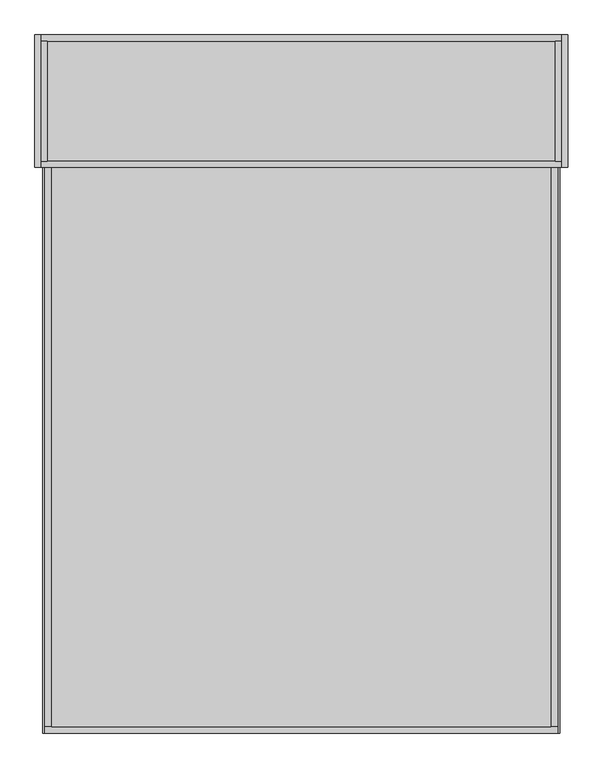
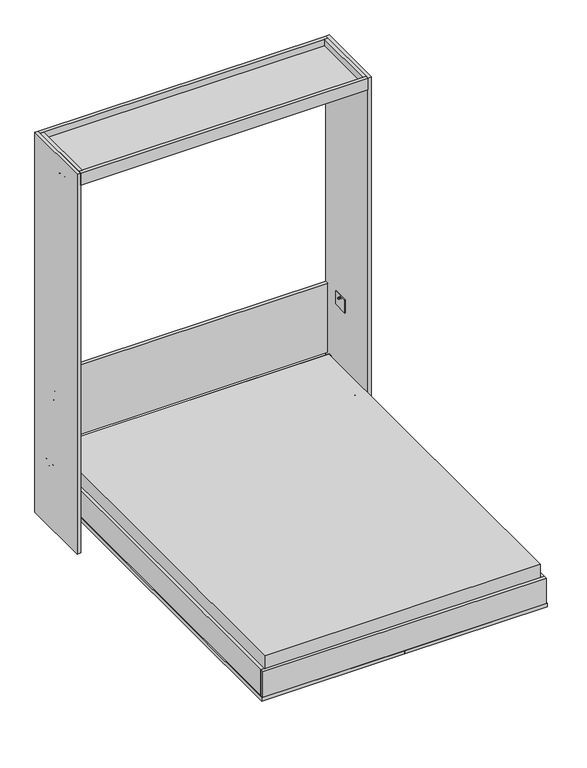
"""IFC4 building model written with IfcOpenShell, lengths in millimetres: furniture geometry, Queen_Murphy_Bed_9263 : Queen_Murphy_Bed_9263."""

from ifc_helpers import new_model, si_unit, point, frame, frame_2d, origin, place, context, project, spatial, polyline, circle_curve, ellipse_curve, trimmed, segment, composite_curve, outline, extrude, source, transform, mapped, element, save
from ifc_brep_helpers import plane_surface, cylinder_surface, revolved_surface, advanced_brep


def furniture_43ceb7e6(model_context):
    return source(origin(), model_context, "Body", "SolidModel", [
        advanced_brep(
        [(1174.75, 1711.325, 337.5130189), (1174.75, 1711.325, 341.9369811), (1174.75, 1711.325, 339.725), (1180.7352741, 1711.325, 334.9121715), (1180.7352741, 1711.325, 344.5378285), (1181.8631492, 1711.325, 336.8657086), (1181.8631492, 1711.325, 342.5842914), (1189.0595048, 1711.325, 334.5274709), (1189.0595048, 1711.325, 344.9225291), (1189.0595048, 1711.325, 331.7875), (1189.0595048, 1711.325, 347.6625), (1190.625, 1711.325, 331.7875), (1190.625, 1711.325, 347.6625), (1190.625, 1711.325, 339.725)],
        [
            (0, 1, circle_curve(frame((1174.75, 1711.325, 339.725), z_axis=(-1.0, 0.0, 0.0), x_axis=(0.0, 0.0, 1.0)), 2.2119811)),
            (1, 2),
            (2, 0),
            (1, 0, circle_curve(frame((1174.75, 1711.325, 339.725), z_axis=(-1.0, 0.0, 0.0), x_axis=(0.0, 0.0, 1.0)), 2.2119811)),
            (3, 4, circle_curve(frame((1180.7352741, 1711.325, 339.725), z_axis=(-1.0, 0.0, 0.0), x_axis=(0.0, 0.0, 1.0)), 4.8128285)),
            (4, 1, circle_curve(frame((1180.5429661, 1711.325, 336.7930678), z_axis=(0.0, -1.0, 0.0), x_axis=(-1.0, 0.0, 0.0)), 7.7471479)),
            (0, 3, circle_curve(frame((1180.5429661, 1711.325, 342.6569322), z_axis=(0.0, -1.0, 0.0), x_axis=(-1.0, 0.0, 0.0)), 7.7471479)),
            (4, 3, circle_curve(frame((1180.7352741, 1711.325, 339.725), z_axis=(-1.0, 0.0, 0.0), x_axis=(0.0, 0.0, 1.0)), 4.8128285)),
            (5, 6, circle_curve(frame((1181.8631492, 1711.325, 339.725), z_axis=(-1.0, 0.0, 0.0), x_axis=(0.0, 0.0, 1.0)), 2.8592914)),
            (6, 4),
            (3, 5),
            (6, 5, circle_curve(frame((1181.8631492, 1711.325, 339.725), z_axis=(-1.0, 0.0, 0.0), x_axis=(0.0, 0.0, 1.0)), 2.8592914)),
            (7, 8, circle_curve(frame((1189.0595048, 1711.325, 339.725), z_axis=(-1.0, 0.0, 0.0), x_axis=(0.0, 0.0, 1.0)), 5.1975291)),
            (8, 6),
            (5, 7),
            (8, 7, circle_curve(frame((1189.0595048, 1711.325, 339.725), z_axis=(-1.0, 0.0, 0.0), x_axis=(0.0, 0.0, 1.0)), 5.1975291)),
            (9, 10, circle_curve(frame((1189.0595048, 1711.325, 339.725), z_axis=(-1.0, 0.0, 0.0), x_axis=(0.0, 0.0, 1.0)), 7.9375)),
            (10, 8),
            (7, 9),
            (10, 9, circle_curve(frame((1189.0595048, 1711.325, 339.725), z_axis=(-1.0, 0.0, 0.0), x_axis=(0.0, 0.0, 1.0)), 7.9375)),
            (11, 12, circle_curve(frame((1190.625, 1711.325, 339.725), z_axis=(-1.0, 0.0, 0.0), x_axis=(0.0, 0.0, 1.0)), 7.9375)),
            (12, 10),
            (9, 11),
            (12, 11, circle_curve(frame((1190.625, 1711.325, 339.725), z_axis=(-1.0, 0.0, 0.0), x_axis=(0.0, 0.0, 1.0)), 7.9375)),
            (13, 12),
            (11, 13),
        ],
        [
            plane_surface(frame((1174.75, 1711.325, 339.725), z_axis=(-1.0, 0.0, 0.0), x_axis=(0.0, 0.0, 1.0))),
            revolved_surface(trimmed(ellipse_curve(frame((1180.5429661, 1711.325, 336.7930678), z_axis=(0.0, 1.0, 0.0), x_axis=(-1.0, 0.0, 0.0)), 7.7471479, 7.7471479), [point((1174.75, 1711.325, 341.9369811))], [point((1180.7352741, 1711.325, 344.5378285))], True, "CARTESIAN"), (1190.625, 1711.325, 339.725), (1.0, 0.0, 0.0)),
            revolved_surface(polyline([(1180.7352741, 1711.325, 344.5378285), (1181.8631492, 1711.325, 342.5842914)]), (1190.625, 1711.325, 339.725), (1.0, 0.0, 0.0)),
            revolved_surface(polyline([(1181.8631492, 1711.325, 342.5842914), (1189.0595048, 1711.325, 344.9225291)]), (1190.625, 1711.325, 339.725), (1.0, 0.0, 0.0)),
            plane_surface(frame((1189.0595048, 1711.325, 339.725), z_axis=(-1.0, 0.0, 0.0), x_axis=(0.0, 0.0, 1.0))),
            cylinder_surface(frame((1190.625, 1711.325, 339.725), z_axis=(1.0, 0.0, 0.0), x_axis=(0.0, 0.0, 1.0)), 7.9375),
            plane_surface(frame((1190.625, 1711.325, 339.725), z_axis=(1.0, 0.0, 0.0), x_axis=(0.0, 0.0, 1.0))),
        ],
        [
            (0, [[1, 2, 3]]),
            (0, [[4, -3, -2]]),
            (1, [[5, 6, -1, 7]]),
            (1, [[8, -7, -4, -6]]),
            (2, [[9, 10, -5, 11]]),
            (2, [[12, -11, -8, -10]]),
            (3, [[13, 14, -9, 15]]),
            (3, [[16, -15, -12, -14]]),
            (4, [[17, 18, -13, 19]]),
            (4, [[20, -19, -16, -18]]),
            (5, [[21, 22, -17, 23]]),
            (5, [[24, -23, -20, -22]]),
            (6, [[25, -21, 26]]),
            (6, [[-26, -24, -25]]),
        ],
    ),
        advanced_brep(
        [(-371.475, 1711.325, 331.7875), (-371.475, 1711.325, 347.6625), (-371.475, 1711.325, 339.725), (-369.9095048, 1711.325, 331.7875), (-369.9095048, 1711.325, 347.6625), (-369.9095048, 1711.325, 334.5274709), (-369.9095048, 1711.325, 344.9225291), (-362.7131492, 1711.325, 336.8657086), (-362.7131492, 1711.325, 342.5842914), (-361.5852741, 1711.325, 334.9121715), (-361.5852741, 1711.325, 344.5378285), (-355.6, 1711.325, 337.5130189), (-355.6, 1711.325, 341.9369811), (-355.6, 1711.325, 339.725)],
        [
            (0, 1, circle_curve(frame((-371.475, 1711.325, 339.725), z_axis=(-1.0, 0.0, 0.0), x_axis=(0.0, 0.0, 1.0)), 7.9375)),
            (1, 2),
            (2, 0),
            (1, 0, circle_curve(frame((-371.475, 1711.325, 339.725), z_axis=(-1.0, 0.0, 0.0), x_axis=(0.0, 0.0, 1.0)), 7.9375)),
            (3, 4, circle_curve(frame((-369.9095048, 1711.325, 339.725), z_axis=(-1.0, 0.0, 0.0), x_axis=(0.0, 0.0, 1.0)), 7.9375)),
            (4, 1),
            (0, 3),
            (4, 3, circle_curve(frame((-369.9095048, 1711.325, 339.725), z_axis=(-1.0, 0.0, 0.0), x_axis=(0.0, 0.0, 1.0)), 7.9375)),
            (5, 6, circle_curve(frame((-369.9095048, 1711.325, 339.725), z_axis=(-1.0, 0.0, 0.0), x_axis=(0.0, 0.0, 1.0)), 5.1975291)),
            (6, 4),
            (3, 5),
            (6, 5, circle_curve(frame((-369.9095048, 1711.325, 339.725), z_axis=(-1.0, 0.0, 0.0), x_axis=(0.0, 0.0, 1.0)), 5.1975291)),
            (7, 8, circle_curve(frame((-362.7131492, 1711.325, 339.725), z_axis=(-1.0, 0.0, 0.0), x_axis=(0.0, 0.0, 1.0)), 2.8592914)),
            (8, 6),
            (5, 7),
            (8, 7, circle_curve(frame((-362.7131492, 1711.325, 339.725), z_axis=(-1.0, 0.0, 0.0), x_axis=(0.0, 0.0, 1.0)), 2.8592914)),
            (9, 10, circle_curve(frame((-361.5852741, 1711.325, 339.725), z_axis=(-1.0, 0.0, 0.0), x_axis=(0.0, 0.0, 1.0)), 4.8128285)),
            (10, 8),
            (7, 9),
            (10, 9, circle_curve(frame((-361.5852741, 1711.325, 339.725), z_axis=(-1.0, 0.0, 0.0), x_axis=(0.0, 0.0, 1.0)), 4.8128285)),
            (11, 12, circle_curve(frame((-355.6, 1711.325, 339.725), z_axis=(-1.0, 0.0, 0.0), x_axis=(0.0, 0.0, 1.0)), 2.2119811)),
            (12, 10, circle_curve(frame((-361.3929661, 1711.325, 336.7930678), z_axis=(0.0, -1.0, 0.0), x_axis=(1.0, 0.0, 0.0)), 7.7471479)),
            (9, 11, circle_curve(frame((-361.3929661, 1711.325, 342.6569322), z_axis=(0.0, -1.0, 0.0), x_axis=(1.0, 0.0, 0.0)), 7.7471479)),
            (12, 11, circle_curve(frame((-355.6, 1711.325, 339.725), z_axis=(-1.0, 0.0, 0.0), x_axis=(0.0, 0.0, 1.0)), 2.2119811)),
            (13, 12),
            (11, 13),
        ],
        [
            plane_surface(frame((-371.475, 1711.325, 339.725), z_axis=(-1.0, 0.0, 0.0), x_axis=(0.0, 0.0, 1.0))),
            cylinder_surface(frame((-371.475, 1711.325, 339.725), z_axis=(1.0, 0.0, 0.0), x_axis=(0.0, 0.0, 1.0)), 7.9375),
            plane_surface(frame((-369.9095048, 1711.325, 339.725), z_axis=(1.0, 0.0, 0.0), x_axis=(0.0, 0.0, 1.0))),
            revolved_surface(polyline([(-369.9095048, 1711.325, 344.9225291), (-362.7131492, 1711.325, 342.5842914)]), (-371.475, 1711.325, 339.725), (1.0, 0.0, 0.0)),
            revolved_surface(polyline([(-362.7131492, 1711.325, 342.5842914), (-361.5852741, 1711.325, 344.5378285)]), (-371.475, 1711.325, 339.725), (1.0, 0.0, 0.0)),
            revolved_surface(trimmed(ellipse_curve(frame((-361.3929661, 1711.325, 336.7930678), z_axis=(0.0, 1.0, 0.0), x_axis=(1.0, 0.0, 0.0)), 7.7471479, 7.7471479), [point((-361.5852741, 1711.325, 344.5378285))], [point((-355.6, 1711.325, 341.9369811))], True, "CARTESIAN"), (-371.475, 1711.325, 339.725), (1.0, 0.0, 0.0)),
            plane_surface(frame((-355.6, 1711.325, 339.725), z_axis=(1.0, 0.0, 0.0), x_axis=(0.0, 0.0, 1.0))),
        ],
        [
            (0, [[1, 2, 3]]),
            (0, [[4, -3, -2]]),
            (1, [[5, 6, -1, 7]]),
            (1, [[8, -7, -4, -6]]),
            (2, [[9, 10, -5, 11]]),
            (2, [[12, -11, -8, -10]]),
            (3, [[13, 14, -9, 15]]),
            (3, [[16, -15, -12, -14]]),
            (4, [[17, 18, -13, 19]]),
            (4, [[20, -19, -16, -18]]),
            (5, [[21, 22, -17, 23]]),
            (5, [[24, -23, -20, -22]]),
            (6, [[25, -21, 26]]),
            (6, [[-26, -24, -25]]),
        ],
    ),
        extrude(outline(polyline([(-352.425, 1730.375), (409.575, 1730.375), (409.575, -301.625), (-352.425, -301.625), (-352.425, 1730.375)])), frame((0.0, 0.0, 215.9), z_axis=(0.0, 0.0, 1.0), x_axis=(1.0, 0.0, 0.0)), (0.0, 0.0, 1.0), 6.35),
        extrude(outline(polyline([(409.575, 1730.375), (1171.575, 1730.375), (1171.575, -301.625), (409.575, -301.625), (409.575, 1730.375)])), frame((0.0, 0.0, 215.9), z_axis=(0.0, 0.0, 1.0), x_axis=(1.0, 0.0, 0.0)), (0.0, 0.0, 1.0), 6.35),
        extrude(outline(polyline([(1707.6588258, 346.075), (1714.9911742, 346.075), (1718.6573484, 339.725), (1714.9911742, 333.375), (1707.6588258, 333.375), (1703.9926516, 339.725), (1707.6588258, 346.075)])), frame((1193.8, 0.0, 0.0), z_axis=(1.0, 0.0, 0.0), x_axis=(0.0, 1.0, 0.0)), (0.0, 0.0, 1.0), 4.7625),
        extrude(outline(polyline([(1707.6588258, 346.075), (1714.9911742, 346.075), (1718.6573484, 339.725), (1714.9911742, 333.375), (1707.6588258, 333.375), (1703.9926516, 339.725), (1707.6588258, 346.075)])), frame((-379.4125, 0.0, 0.0), z_axis=(1.0, 0.0, 0.0), x_axis=(0.0, 1.0, 0.0)), (0.0, 0.0, 1.0), 7.9375),
        extrude(outline(polyline([(1152.525, -301.625), (1152.525, 1730.375), (1171.575, 1730.375), (1171.575, -301.625), (1152.525, -301.625)])), frame((0.0, 0.0, 177.8), z_axis=(0.0, 0.0, 1.0), x_axis=(1.0, 0.0, 0.0)), (0.0, 0.0, 1.0), 38.1),
        extrude(outline(polyline([(-333.375, 1730.375), (-333.375, -301.625), (-352.425, -301.625), (-352.425, 1730.375), (-333.375, 1730.375)])), frame((0.0, 0.0, 177.8), z_axis=(0.0, 0.0, 1.0), x_axis=(1.0, 0.0, 0.0)), (0.0, 0.0, 1.0), 38.1),
        extrude(outline(polyline([(1730.375, 215.9), (1730.375, 177.8), (1711.325, 177.8), (1673.225, 177.8), (1673.225, 196.85), (1711.325, 196.85), (1711.325, 215.9), (1730.375, 215.9)])), frame((-333.375, 0.0, 0.0), z_axis=(1.0, 0.0, 0.0), x_axis=(0.0, 1.0, 0.0)), (0.0, 0.0, 1.0), 1485.9),
        extrude(outline(polyline([(1127.125, 215.9), (1146.175, 215.9), (1146.175, 196.85), (1184.275, 196.85), (1184.275, 177.8), (1146.175, 177.8), (1127.125, 177.8), (1127.125, 215.9)])), frame((-333.375, 0.0, 0.0), z_axis=(1.0, 0.0, 0.0), x_axis=(0.0, 1.0, 0.0)), (0.0, 0.0, 1.0), 1485.9),
        extrude(outline(polyline([(555.625, 215.9), (574.675, 215.9), (574.675, 196.85), (612.775, 196.85), (612.775, 177.8), (574.675, 177.8), (555.625, 177.8), (555.625, 215.9)])), frame((-333.375, 0.0, 0.0), z_axis=(1.0, 0.0, 0.0), x_axis=(0.0, 1.0, 0.0)), (0.0, 0.0, 1.0), 1485.9),
        extrude(outline(polyline([(-15.875, 215.9), (-15.875, 177.8), (-34.925, 177.8), (-73.025, 177.8), (-73.025, 196.85), (-34.925, 196.85), (-34.925, 215.9), (-15.875, 215.9)])), frame((-333.375, 0.0, 0.0), z_axis=(1.0, 0.0, 0.0), x_axis=(0.0, 1.0, 0.0)), (0.0, 0.0, 1.0), 1485.9),
        extrude(outline(polyline([(-301.625, 215.9), (-282.575, 215.9), (-282.575, 196.85), (-244.475, 196.85), (-244.475, 177.8), (-282.575, 177.8), (-301.625, 177.8), (-301.625, 215.9)])), frame((-333.375, 0.0, 0.0), z_axis=(1.0, 0.0, 0.0), x_axis=(0.0, 1.0, 0.0)), (0.0, 0.0, 1.0), 1485.9),
        extrude(outline(polyline([(-382.5875, 1784.35), (1201.7375, 1784.35), (1201.7375, 1419.225), (-382.5875, 1419.225), (-382.5875, 1784.35)])), frame((0.0, 0.0, 2136.775), z_axis=(0.0, 0.0, 1.0), x_axis=(1.0, 0.0, 0.0)), (0.0, 0.0, 1.0), 19.05),
        extrude(outline(polyline([(-382.5875, 1784.35), (-363.5375, 1784.35), (-363.5375, 1419.225), (-382.5875, 1419.225), (-382.5875, 1784.35)])), frame((0.0, 0.0, 2155.825), z_axis=(0.0, 0.0, 1.0), x_axis=(1.0, 0.0, 0.0)), (0.0, 0.0, 1.0), 38.1),
        extrude(outline(polyline([(1182.6875, 1784.35), (1201.7375, 1784.35), (1201.7375, 1419.225), (1182.6875, 1419.225), (1182.6875, 1784.35)])), frame((0.0, 0.0, 2155.825), z_axis=(0.0, 0.0, 1.0), x_axis=(1.0, 0.0, 0.0)), (0.0, 0.0, 1.0), 38.1),
        extrude(outline(polyline([(1201.7375, 1803.4), (1201.7375, 1784.35), (-382.5875, 1784.35), (-382.5875, 1803.4), (1201.7375, 1803.4)])), frame((0.0, 0.0, 2124.075), z_axis=(0.0, 0.0, 1.0), x_axis=(1.0, 0.0, 0.0)), (0.0, 0.0, 1.0), 69.85),
        extrude(outline(polyline([(1201.7375, 1419.225), (1201.7375, 1400.175), (-382.5875, 1400.175), (-382.5875, 1419.225), (1201.7375, 1419.225)])), frame((0.0, 0.0, 2124.075), z_axis=(0.0, 0.0, 1.0), x_axis=(1.0, 0.0, 0.0)), (0.0, 0.0, 1.0), 69.85),
        extrude(outline(polyline([(-350.8375, 1717.675), (1169.9875, 1717.675), (1169.9875, -301.625), (-350.8375, -301.625), (-350.8375, 1717.675)])), frame((0.0, 0.0, 222.25), z_axis=(0.0, 0.0, 1.0), x_axis=(1.0, 0.0, 0.0)), (0.0, 0.0, 1.0), 180.975),
        extrude(outline(composite_curve([segment(trimmed(circle_curve(frame_2d((1520.825, 279.4)), 7.540625), [point((1513.284375, 279.4))], [point((1528.365625, 279.4))], False, "CARTESIAN"), True, "CONTINUOUS"), segment(trimmed(circle_curve(frame_2d((1520.825, 279.4)), 7.540625), [point((1528.365625, 279.4))], [point((1513.284375, 279.4))], False, "CARTESIAN"), True, "CONTINUOUS")], self_intersect=False)), frame((1147.7625, 0.0, 0.0), z_axis=(1.0, 0.0, 0.0), x_axis=(0.0, 1.0, 0.0)), (0.0, 0.0, 1.0), 53.975),
        extrude(outline(polyline([(1196.975, 1476.375), (1196.975, 1565.275), (1201.7375, 1565.275), (1201.7375, 1476.375), (1196.975, 1476.375)])), frame((0.0, 0.0, 254.0), z_axis=(0.0, 0.0, 1.0), x_axis=(1.0, 0.0, 0.0)), (0.0, 0.0, 1.0), 50.8),
        extrude(outline(composite_curve([segment(trimmed(circle_curve(frame_2d((1520.825, 279.4)), 7.540625), [point((1513.284375, 279.4))], [point((1528.365625, 279.4))], False, "CARTESIAN"), True, "CONTINUOUS"), segment(trimmed(circle_curve(frame_2d((1520.825, 279.4)), 7.540625), [point((1528.365625, 279.4))], [point((1513.284375, 279.4))], False, "CARTESIAN"), True, "CONTINUOUS")], self_intersect=False)), frame((-395.2875, 0.0, 0.0), z_axis=(1.0, 0.0, 0.0), x_axis=(0.0, 1.0, 0.0)), (0.0, 0.0, 1.0), 66.675),
        extrude(outline(polyline([(-377.825, 1565.275), (-377.825, 1476.375), (-382.5875, 1476.375), (-382.5875, 1565.275), (-377.825, 1565.275)])), frame((0.0, 0.0, 254.0), z_axis=(0.0, 0.0, 1.0), x_axis=(1.0, 0.0, 0.0)), (0.0, 0.0, 1.0), 50.8),
        extrude(outline(polyline([(1650.5088258, 768.35), (1657.8411742, 768.35), (1661.5073484, 762.0), (1657.8411742, 755.65), (1650.5088258, 755.65), (1646.8426516, 762.0), (1650.5088258, 768.35)])), frame((1196.975, 0.0, 0.0), z_axis=(1.0, 0.0, 0.0), x_axis=(0.0, 1.0, 0.0)), (0.0, 0.0, 1.0), 4.7625),
        extrude(outline(polyline([(1195.3875, 1609.725), (1195.3875, 1698.625), (1198.5625, 1698.625), (1198.5625, 1609.725), (1195.3875, 1609.725)])), frame((0.0, 0.0, 698.5), z_axis=(0.0, 0.0, 1.0), x_axis=(1.0, 0.0, 0.0)), (0.0, 0.0, 1.0), 76.2),
        extrude(outline(polyline([(1650.5088258, 768.35), (1657.8411742, 768.35), (1661.5073484, 762.0), (1657.8411742, 755.65), (1650.5088258, 755.65), (1646.8426516, 762.0), (1650.5088258, 768.35)])), frame((-387.35, 0.0, 0.0), z_axis=(1.0, 0.0, 0.0), x_axis=(0.0, 1.0, 0.0)), (0.0, 0.0, 1.0), 4.7625),
        extrude(outline(composite_curve([segment(trimmed(circle_curve(frame_2d((1571.625, 2092.325)), 22.225), [point((1549.4, 2092.325))], [point((1593.85, 2092.325))], False, "CARTESIAN"), True, "CONTINUOUS"), segment(trimmed(circle_curve(frame_2d((1571.625, 2092.325)), 22.225), [point((1593.85, 2092.325))], [point((1549.4, 2092.325))], False, "CARTESIAN"), True, "CONTINUOUS")], self_intersect=False)), frame((1199.35625, 0.0, 0.0), z_axis=(1.0, 0.0, 0.0), x_axis=(0.0, 1.0, 0.0)), (0.0, 0.0, 1.0), 2.38125),
        advanced_brep(
        [(1220.7875, 1400.175, 2193.925), (1220.7875, 1803.4, 2193.925), (1201.7375, 1803.4, 2193.925), (1201.7375, 1400.175, 2193.925), (1220.7875, 1400.175, -19.05), (1201.7375, 1400.175, -19.05), (1201.7375, 1803.4, -19.05), (1220.7875, 1803.4, -19.05), (1201.7375, 1588.29375, 2092.325), (1201.7375, 1580.35625, 2092.325), (1214.4375, 1580.35625, 2092.325), (1214.4375, 1588.29375, 2092.325)],
        [
            (0, 1),
            (1, 2),
            (2, 3),
            (3, 0),
            (4, 5),
            (5, 6),
            (6, 7),
            (7, 4),
            (0, 4),
            (7, 1),
            (6, 2),
            (5, 3),
            (8, 9, circle_curve(frame((1201.7375, 1584.325, 2092.325), z_axis=(1.0, 0.0, 0.0), x_axis=(0.0, 1.0, 0.0)), 3.96875)),
            (9, 8, circle_curve(frame((1201.7375, 1584.325, 2092.325), z_axis=(1.0, 0.0, 0.0), x_axis=(0.0, 1.0, 0.0)), 3.96875)),
            (10, 11, circle_curve(frame((1214.4375, 1584.325, 2092.325), z_axis=(-1.0, 0.0, 0.0), x_axis=(0.0, 1.0, 0.0)), 3.96875)),
            (11, 10, circle_curve(frame((1214.4375, 1584.325, 2092.325), z_axis=(-1.0, 0.0, 0.0), x_axis=(0.0, 1.0, 0.0)), 3.96875)),
            (11, 8),
            (9, 10),
        ],
        [
            plane_surface(frame((1220.7875, 1803.4, 2193.925), z_axis=(0.0, 0.0, 1.0), x_axis=(0.0, 1.0, 0.0))),
            plane_surface(frame((1220.7875, 1803.4, -19.05), z_axis=(0.0, 0.0, -1.0), x_axis=(0.0, -1.0, 0.0))),
            plane_surface(frame((1220.7875, 1400.175, 2193.925), z_axis=(1.0, 0.0, 0.0), x_axis=(0.0, 0.0, -1.0))),
            plane_surface(frame((1220.7875, 1803.4, 2193.925), z_axis=(0.0, 1.0, 0.0), x_axis=(0.0, 0.0, -1.0))),
            plane_surface(frame((1201.7375, 1803.4, 2193.925), z_axis=(-1.0, 0.0, 0.0), x_axis=(0.0, 0.0, -1.0))),
            plane_surface(frame((1201.7375, 1400.175, 2193.925), z_axis=(0.0, -1.0, 0.0), x_axis=(0.0, 0.0, -1.0))),
            plane_surface(frame((1214.4375, 1588.29375, 2092.325), z_axis=(-1.0, 0.0, 0.0), x_axis=(0.0, 0.0, 1.0))),
            revolved_surface(polyline([(1214.4375, 1588.29375, 2092.325), (1201.7375, 1588.29375, 2092.325)]), (1201.7375, 1584.325, 2092.325), (1.0, 0.0, 0.0)),
        ],
        [
            (0, [[1, 2, 3, 4]]),
            (1, [[5, 6, 7, 8]]),
            (2, [[-1, 9, -8, 10]]),
            (3, [[-2, -10, -7, 11]]),
            (4, [[-3, -11, -6, 12], [13, 14]]),
            (5, [[-4, -12, -5, -9]]),
            (6, [[15, 16]]),
            (7, [[-16, 17, -14, 18]]),
            (7, [[-15, -18, -13, -17]]),
        ],
    ),
        extrude(outline(composite_curve([segment(trimmed(circle_curve(frame_2d((1571.625, 2092.325)), 22.225), [point((1549.4, 2092.325))], [point((1593.85, 2092.325))], False, "CARTESIAN"), True, "CONTINUOUS"), segment(trimmed(circle_curve(frame_2d((1571.625, 2092.325)), 22.225), [point((1593.85, 2092.325))], [point((1549.4, 2092.325))], False, "CARTESIAN"), True, "CONTINUOUS")], self_intersect=False)), frame((-382.5875, 0.0, 0.0), z_axis=(1.0, 0.0, 0.0), x_axis=(0.0, 1.0, 0.0)), (0.0, 0.0, 1.0), 2.38125),
        advanced_brep(
        [(1182.6875, 1654.175, 759.7880189), (1182.6875, 1654.175, 764.2119811), (1182.6875, 1654.175, 762.0), (1188.6727741, 1654.175, 757.1871715), (1188.6727741, 1654.175, 766.8128285), (1189.8006492, 1654.175, 759.1407086), (1189.8006492, 1654.175, 764.8592914), (1196.9970048, 1654.175, 756.8024709), (1196.9970048, 1654.175, 767.1975291), (1196.9970048, 1654.175, 754.0625), (1196.9970048, 1654.175, 769.9375), (1198.5625, 1654.175, 754.0625), (1198.5625, 1654.175, 769.9375), (1198.5625, 1654.175, 762.0)],
        [
            (0, 1, circle_curve(frame((1182.6875, 1654.175, 762.0), z_axis=(-1.0, 0.0, 0.0), x_axis=(0.0, 0.0, 1.0)), 2.2119811)),
            (1, 2),
            (2, 0),
            (1, 0, circle_curve(frame((1182.6875, 1654.175, 762.0), z_axis=(-1.0, 0.0, 0.0), x_axis=(0.0, 0.0, 1.0)), 2.2119811)),
            (3, 4, circle_curve(frame((1188.6727741, 1654.175, 762.0), z_axis=(-1.0, 0.0, 0.0), x_axis=(0.0, 0.0, 1.0)), 4.8128285)),
            (4, 1, circle_curve(frame((1188.4804661, 1654.175, 759.0680678), z_axis=(0.0, -1.0, 0.0), x_axis=(-1.0, 0.0, 0.0)), 7.7471479)),
            (0, 3, circle_curve(frame((1188.4804661, 1654.175, 764.9319322), z_axis=(0.0, -1.0, 0.0), x_axis=(-1.0, 0.0, 0.0)), 7.7471479)),
            (4, 3, circle_curve(frame((1188.6727741, 1654.175, 762.0), z_axis=(-1.0, 0.0, 0.0), x_axis=(0.0, 0.0, 1.0)), 4.8128285)),
            (5, 6, circle_curve(frame((1189.8006492, 1654.175, 762.0), z_axis=(-1.0, 0.0, 0.0), x_axis=(0.0, 0.0, 1.0)), 2.8592914)),
            (6, 4),
            (3, 5),
            (6, 5, circle_curve(frame((1189.8006492, 1654.175, 762.0), z_axis=(-1.0, 0.0, 0.0), x_axis=(0.0, 0.0, 1.0)), 2.8592914)),
            (7, 8, circle_curve(frame((1196.9970048, 1654.175, 762.0), z_axis=(-1.0, 0.0, 0.0), x_axis=(0.0, 0.0, 1.0)), 5.1975291)),
            (8, 6),
            (5, 7),
            (8, 7, circle_curve(frame((1196.9970048, 1654.175, 762.0), z_axis=(-1.0, 0.0, 0.0), x_axis=(0.0, 0.0, 1.0)), 5.1975291)),
            (9, 10, circle_curve(frame((1196.9970048, 1654.175, 762.0), z_axis=(-1.0, 0.0, 0.0), x_axis=(0.0, 0.0, 1.0)), 7.9375)),
            (10, 8),
            (7, 9),
            (10, 9, circle_curve(frame((1196.9970048, 1654.175, 762.0), z_axis=(-1.0, 0.0, 0.0), x_axis=(0.0, 0.0, 1.0)), 7.9375)),
            (11, 12, circle_curve(frame((1198.5625, 1654.175, 762.0), z_axis=(-1.0, 0.0, 0.0), x_axis=(0.0, 0.0, 1.0)), 7.9375)),
            (12, 10),
            (9, 11),
            (12, 11, circle_curve(frame((1198.5625, 1654.175, 762.0), z_axis=(-1.0, 0.0, 0.0), x_axis=(0.0, 0.0, 1.0)), 7.9375)),
            (13, 12),
            (11, 13),
        ],
        [
            plane_surface(frame((1182.6875, 1654.175, 762.0), z_axis=(-1.0, 0.0, 0.0), x_axis=(0.0, 0.0, 1.0))),
            revolved_surface(trimmed(ellipse_curve(frame((1188.4804661, 1654.175, 759.0680678), z_axis=(0.0, 1.0, 0.0), x_axis=(-1.0, 0.0, 0.0)), 7.7471479, 7.7471479), [point((1182.6875, 1654.175, 764.2119811))], [point((1188.6727741, 1654.175, 766.8128285))], True, "CARTESIAN"), (1198.5625, 1654.175, 762.0), (1.0, 0.0, 0.0)),
            revolved_surface(polyline([(1188.6727741, 1654.175, 766.8128285), (1189.8006492, 1654.175, 764.8592914)]), (1198.5625, 1654.175, 762.0), (1.0, 0.0, 0.0)),
            revolved_surface(polyline([(1189.8006492, 1654.175, 764.8592914), (1196.9970048, 1654.175, 767.1975291)]), (1198.5625, 1654.175, 762.0), (1.0, 0.0, 0.0)),
            plane_surface(frame((1196.9970048, 1654.175, 762.0), z_axis=(-1.0, 0.0, 0.0), x_axis=(0.0, 0.0, 1.0))),
            cylinder_surface(frame((1198.5625, 1654.175, 762.0), z_axis=(1.0, 0.0, 0.0), x_axis=(0.0, 0.0, 1.0)), 7.9375),
            plane_surface(frame((1198.5625, 1654.175, 762.0), z_axis=(1.0, 0.0, 0.0), x_axis=(0.0, 0.0, 1.0))),
        ],
        [
            (0, [[1, 2, 3]]),
            (0, [[4, -3, -2]]),
            (1, [[5, 6, -1, 7]]),
            (1, [[8, -7, -4, -6]]),
            (2, [[9, 10, -5, 11]]),
            (2, [[12, -11, -8, -10]]),
            (3, [[13, 14, -9, 15]]),
            (3, [[16, -15, -12, -14]]),
            (4, [[17, 18, -13, 19]]),
            (4, [[20, -19, -16, -18]]),
            (5, [[21, 22, -17, 23]]),
            (5, [[24, -23, -20, -22]]),
            (6, [[25, -21, 26]]),
            (6, [[-26, -24, -25]]),
        ],
    ),
        advanced_brep(
        [(1177.13125, 1571.625, 2092.325), (1199.35625, 1571.625, 2070.1), (1199.35625, 1571.625, 2092.325), (1199.35625, 1571.625, 2114.55)],
        [
            (0, 1, circle_curve(frame((1199.35625, 1571.625, 2092.325), z_axis=(0.0, -1.0, 0.0), x_axis=(-1.0, 0.0, 0.0)), 22.225)),
            (1, 2),
            (2, 0),
            (2, 3),
            (3, 0, circle_curve(frame((1199.35625, 1571.625, 2092.325), z_axis=(0.0, -1.0, 0.0), x_axis=(-1.0, 0.0, 0.0)), 22.225)),
            (3, 1, circle_curve(frame((1199.35625, 1571.625, 2092.325), z_axis=(-1.0, 0.0, 0.0), x_axis=(0.0, 0.0, -1.0)), 22.225)),
        ],
        [
            plane_surface(frame((1199.35625, 1571.625, 2092.325), z_axis=(0.0, -1.0, 0.0), x_axis=(0.0, 0.0, -1.0))),
            plane_surface(frame((1199.35625, 1571.625, 2092.325), z_axis=(0.0, -1.0, 0.0), x_axis=(0.0, 0.0, 1.0))),
            revolved_surface(trimmed(ellipse_curve(frame((1199.35625, 1571.625, 2092.325), z_axis=(0.0, 1.0, 0.0), x_axis=(-1.0, 0.0, 0.0)), 22.225, 22.225), [point((1199.35625, 1571.625, 2070.1))], [point((1177.13125, 1571.625, 2092.325))], True, "CARTESIAN"), (1199.35625, 1571.625, 2092.325), (-1.0, 0.0, 0.0)),
            plane_surface(frame((1199.35625, 1571.625, 2092.325), z_axis=(1.0, 0.0, 0.0), x_axis=(0.0, 0.0, -1.0))),
        ],
        [
            (0, [[1, 2, 3]]),
            (1, [[4, 5, -3]]),
            (2, [[6, -1, -5]]),
            (3, [[-2, -6, -4]]),
        ],
    ),
        extrude(outline(polyline([(1201.7375, 1803.4), (1201.7375, 1784.35), (-382.5875, 1784.35), (-382.5875, 1803.4), (1201.7375, 1803.4)])), frame((0.0, 0.0, 361.95), z_axis=(0.0, 0.0, 1.0), x_axis=(1.0, 0.0, 0.0)), (0.0, 0.0, 1.0), 403.225),
        advanced_brep(
        [(-379.4125, 1654.175, 754.0625), (-379.4125, 1654.175, 769.9375), (-379.4125, 1654.175, 762.0), (-377.8470048, 1654.175, 754.0625), (-377.8470048, 1654.175, 769.9375), (-377.8470048, 1654.175, 756.8024709), (-377.8470048, 1654.175, 767.1975291), (-370.6506492, 1654.175, 759.1407086), (-370.6506492, 1654.175, 764.8592914), (-369.5227741, 1654.175, 757.1871715), (-369.5227741, 1654.175, 766.8128285), (-363.5375, 1654.175, 759.7880189), (-363.5375, 1654.175, 764.2119811), (-363.5375, 1654.175, 762.0)],
        [
            (0, 1, circle_curve(frame((-379.4125, 1654.175, 762.0), z_axis=(-1.0, 0.0, 0.0), x_axis=(0.0, 0.0, 1.0)), 7.9375)),
            (1, 2),
            (2, 0),
            (1, 0, circle_curve(frame((-379.4125, 1654.175, 762.0), z_axis=(-1.0, 0.0, 0.0), x_axis=(0.0, 0.0, 1.0)), 7.9375)),
            (3, 4, circle_curve(frame((-377.8470048, 1654.175, 762.0), z_axis=(-1.0, 0.0, 0.0), x_axis=(0.0, 0.0, 1.0)), 7.9375)),
            (4, 1),
            (0, 3),
            (4, 3, circle_curve(frame((-377.8470048, 1654.175, 762.0), z_axis=(-1.0, 0.0, 0.0), x_axis=(0.0, 0.0, 1.0)), 7.9375)),
            (5, 6, circle_curve(frame((-377.8470048, 1654.175, 762.0), z_axis=(-1.0, 0.0, 0.0), x_axis=(0.0, 0.0, 1.0)), 5.1975291)),
            (6, 4),
            (3, 5),
            (6, 5, circle_curve(frame((-377.8470048, 1654.175, 762.0), z_axis=(-1.0, 0.0, 0.0), x_axis=(0.0, 0.0, 1.0)), 5.1975291)),
            (7, 8, circle_curve(frame((-370.6506492, 1654.175, 762.0), z_axis=(-1.0, 0.0, 0.0), x_axis=(0.0, 0.0, 1.0)), 2.8592914)),
            (8, 6),
            (5, 7),
            (8, 7, circle_curve(frame((-370.6506492, 1654.175, 762.0), z_axis=(-1.0, 0.0, 0.0), x_axis=(0.0, 0.0, 1.0)), 2.8592914)),
            (9, 10, circle_curve(frame((-369.5227741, 1654.175, 762.0), z_axis=(-1.0, 0.0, 0.0), x_axis=(0.0, 0.0, 1.0)), 4.8128285)),
            (10, 8),
            (7, 9),
            (10, 9, circle_curve(frame((-369.5227741, 1654.175, 762.0), z_axis=(-1.0, 0.0, 0.0), x_axis=(0.0, 0.0, 1.0)), 4.8128285)),
            (11, 12, circle_curve(frame((-363.5375, 1654.175, 762.0), z_axis=(-1.0, 0.0, 0.0), x_axis=(0.0, 0.0, 1.0)), 2.2119811)),
            (12, 10, circle_curve(frame((-369.3304661, 1654.175, 759.0680678), z_axis=(0.0, -1.0, 0.0), x_axis=(1.0, 0.0, 0.0)), 7.7471479)),
            (9, 11, circle_curve(frame((-369.3304661, 1654.175, 764.9319322), z_axis=(0.0, -1.0, 0.0), x_axis=(1.0, 0.0, 0.0)), 7.7471479)),
            (12, 11, circle_curve(frame((-363.5375, 1654.175, 762.0), z_axis=(-1.0, 0.0, 0.0), x_axis=(0.0, 0.0, 1.0)), 2.2119811)),
            (13, 12),
            (11, 13),
        ],
        [
            plane_surface(frame((-379.4125, 1654.175, 762.0), z_axis=(-1.0, 0.0, 0.0), x_axis=(0.0, 0.0, 1.0))),
            cylinder_surface(frame((-379.4125, 1654.175, 762.0), z_axis=(1.0, 0.0, 0.0), x_axis=(0.0, 0.0, 1.0)), 7.9375),
            plane_surface(frame((-377.8470048, 1654.175, 762.0), z_axis=(1.0, 0.0, 0.0), x_axis=(0.0, 0.0, 1.0))),
            revolved_surface(polyline([(-377.8470048, 1654.175, 767.1975291), (-370.6506492, 1654.175, 764.8592914)]), (-379.4125, 1654.175, 762.0), (1.0, 0.0, 0.0)),
            revolved_surface(polyline([(-370.6506492, 1654.175, 764.8592914), (-369.5227741, 1654.175, 766.8128285)]), (-379.4125, 1654.175, 762.0), (1.0, 0.0, 0.0)),
            revolved_surface(trimmed(ellipse_curve(frame((-369.3304661, 1654.175, 759.0680678), z_axis=(0.0, 1.0, 0.0), x_axis=(1.0, 0.0, 0.0)), 7.7471479, 7.7471479), [point((-369.5227741, 1654.175, 766.8128285))], [point((-363.5375, 1654.175, 764.2119811))], True, "CARTESIAN"), (-379.4125, 1654.175, 762.0), (1.0, 0.0, 0.0)),
            plane_surface(frame((-363.5375, 1654.175, 762.0), z_axis=(1.0, 0.0, 0.0), x_axis=(0.0, 0.0, 1.0))),
        ],
        [
            (0, [[1, 2, 3]]),
            (0, [[4, -3, -2]]),
            (1, [[5, 6, -1, 7]]),
            (1, [[8, -7, -4, -6]]),
            (2, [[9, 10, -5, 11]]),
            (2, [[12, -11, -8, -10]]),
            (3, [[13, 14, -9, 15]]),
            (3, [[16, -15, -12, -14]]),
            (4, [[17, 18, -13, 19]]),
            (4, [[20, -19, -16, -18]]),
            (5, [[21, 22, -17, 23]]),
            (5, [[24, -23, -20, -22]]),
            (6, [[25, -21, 26]]),
            (6, [[-26, -24, -25]]),
        ],
    ),
        advanced_brep(
        [(-382.5875, 1609.725, 774.7), (-382.5875, 1698.625, 774.7), (-382.5875, 1698.625, 698.5), (-382.5875, 1609.725, 698.5), (-382.5875, 1654.175, 714.375), (-382.5875, 1654.175, 708.025), (-379.4125, 1609.725, 774.7), (-379.4125, 1609.725, 698.5), (-379.4125, 1698.625, 698.5), (-379.4125, 1698.625, 774.7), (-379.4125, 1654.175, 704.85), (-379.4125, 1654.175, 717.55)],
        [
            (0, 1),
            (1, 2),
            (2, 3),
            (3, 0),
            (4, 5, circle_curve(frame((-382.5875, 1654.175, 711.2), z_axis=(1.0, 0.0, 0.0), x_axis=(0.0, 0.0, 1.0)), 3.175)),
            (5, 4, circle_curve(frame((-382.5875, 1654.175, 711.2), z_axis=(1.0, 0.0, 0.0), x_axis=(0.0, 0.0, 1.0)), 3.175)),
            (6, 7),
            (7, 8),
            (8, 9),
            (9, 6),
            (10, 11, circle_curve(frame((-379.4125, 1654.175, 711.2), z_axis=(-1.0, 0.0, 0.0), x_axis=(0.0, 0.0, 1.0)), 6.35)),
            (11, 10, circle_curve(frame((-379.4125, 1654.175, 711.2), z_axis=(-1.0, 0.0, 0.0), x_axis=(0.0, 0.0, 1.0)), 6.35)),
            (0, 6),
            (9, 1),
            (8, 2),
            (7, 3),
            (10, 5),
            (4, 11),
        ],
        [
            plane_surface(frame((-382.5875, 1654.175, 774.7), z_axis=(-1.0, 0.0, 0.0), x_axis=(0.0, 1.0, 0.0))),
            plane_surface(frame((-379.4125, 1654.175, 774.7), z_axis=(1.0, 0.0, 0.0), x_axis=(0.0, -1.0, 0.0))),
            plane_surface(frame((-382.5875, 1609.725, 774.7), z_axis=(0.0, 0.0, 1.0), x_axis=(1.0, 0.0, 0.0))),
            plane_surface(frame((-382.5875, 1698.625, 774.7), z_axis=(0.0, 1.0, 0.0), x_axis=(1.0, 0.0, 0.0))),
            plane_surface(frame((-382.5875, 1698.625, 698.5), z_axis=(0.0, 0.0, -1.0), x_axis=(1.0, 0.0, 0.0))),
            plane_surface(frame((-382.5875, 1609.725, 698.5), z_axis=(0.0, -1.0, 0.0), x_axis=(1.0, 0.0, 0.0))),
            revolved_surface(polyline([(-379.4125, 1654.175, 717.55), (-382.5875, 1654.175, 714.375)]), (-382.5875, 1654.175, 711.2), (1.0, 0.0, 0.0)),
        ],
        [
            (0, [[1, 2, 3, 4], [5, 6]]),
            (1, [[7, 8, 9, 10], [11, 12]]),
            (2, [[-1, 13, -10, 14]]),
            (3, [[-2, -14, -9, 15]]),
            (4, [[-3, -15, -8, 16]]),
            (5, [[-4, -16, -7, -13]]),
            (6, [[17, -5, 18, -11]]),
            (6, [[-17, -12, -18, -6]]),
        ],
    ),
        advanced_brep(
        [(-357.98125, 1571.625, 2092.325), (-380.20625, 1571.625, 2092.325), (-380.20625, 1571.625, 2070.1), (-380.20625, 1571.625, 2114.55)],
        [
            (0, 1),
            (1, 2),
            (2, 0, circle_curve(frame((-380.20625, 1571.625, 2092.325), z_axis=(0.0, -1.0, 0.0), x_axis=(1.0, 0.0, 0.0)), 22.225)),
            (0, 3, circle_curve(frame((-380.20625, 1571.625, 2092.325), z_axis=(0.0, -1.0, 0.0), x_axis=(1.0, 0.0, 0.0)), 22.225)),
            (3, 1),
            (3, 2, circle_curve(frame((-380.20625, 1571.625, 2092.325), z_axis=(-1.0, 0.0, 0.0), x_axis=(0.0, 0.0, -1.0)), 22.225)),
        ],
        [
            plane_surface(frame((-380.20625, 1571.625, 2092.325), z_axis=(0.0, -1.0, 0.0), x_axis=(0.0, 0.0, -1.0))),
            plane_surface(frame((-380.20625, 1571.625, 2092.325), z_axis=(0.0, -1.0, 0.0), x_axis=(0.0, 0.0, 1.0))),
            plane_surface(frame((-380.20625, 1571.625, 2092.325), z_axis=(-1.0, 0.0, 0.0), x_axis=(0.0, 0.0, -1.0))),
            revolved_surface(trimmed(ellipse_curve(frame((-380.20625, 1571.625, 2092.325), z_axis=(0.0, 1.0, 0.0), x_axis=(1.0, 0.0, 0.0)), 22.225, 22.225), [point((-357.98125, 1571.625, 2092.325))], [point((-380.20625, 1571.625, 2070.1))], True, "CARTESIAN"), (-380.20625, 1571.625, 2092.325), (-1.0, 0.0, 0.0)),
        ],
        [
            (0, [[1, 2, 3]]),
            (1, [[4, 5, -1]]),
            (2, [[6, -2, -5]]),
            (3, [[-3, -6, -4]]),
        ],
    ),
        advanced_brep(
        [(-401.6375, 1400.175, 2193.925), (-382.5875, 1400.175, 2193.925), (-382.5875, 1803.4, 2193.925), (-401.6375, 1803.4, 2193.925), (-401.6375, 1400.175, -19.05), (-401.6375, 1803.4, -19.05), (-382.5875, 1803.4, -19.05), (-382.5875, 1400.175, -19.05), (-382.5875, 1580.35625, 2092.325), (-382.5875, 1588.29375, 2092.325), (-382.5875, 1646.2375, 762.0), (-382.5875, 1662.1125, 762.0), (-382.5875, 1512.8875, 279.4), (-382.5875, 1528.7625, 279.4), (-395.2875, 1580.35625, 2092.325), (-395.2875, 1588.29375, 2092.325), (-395.2875, 1646.2375, 762.0), (-395.2875, 1662.1125, 762.0), (-395.2875, 1512.8875, 279.4), (-395.2875, 1528.7625, 279.4)],
        [
            (0, 1),
            (1, 2),
            (2, 3),
            (3, 0),
            (4, 5),
            (5, 6),
            (6, 7),
            (7, 4),
            (0, 4),
            (7, 1),
            (6, 2),
            (8, 9, circle_curve(frame((-382.5875, 1584.325, 2092.325), z_axis=(-1.0, 0.0, 0.0), x_axis=(0.0, 1.0, 0.0)), 3.96875)),
            (9, 8, circle_curve(frame((-382.5875, 1584.325, 2092.325), z_axis=(-1.0, 0.0, 0.0), x_axis=(0.0, 1.0, 0.0)), 3.96875)),
            (10, 11, circle_curve(frame((-382.5875, 1654.175, 762.0), z_axis=(-1.0, 0.0, 0.0), x_axis=(0.0, 1.0, 0.0)), 7.9375)),
            (11, 10, circle_curve(frame((-382.5875, 1654.175, 762.0), z_axis=(-1.0, 0.0, 0.0), x_axis=(0.0, 1.0, 0.0)), 7.9375)),
            (12, 13, circle_curve(frame((-382.5875, 1520.825, 279.4), z_axis=(-1.0, 0.0, 0.0), x_axis=(0.0, 1.0, 0.0)), 7.9375)),
            (13, 12, circle_curve(frame((-382.5875, 1520.825, 279.4), z_axis=(-1.0, 0.0, 0.0), x_axis=(0.0, 1.0, 0.0)), 7.9375)),
            (5, 3),
            (14, 15, circle_curve(frame((-395.2875, 1584.325, 2092.325), z_axis=(1.0, 0.0, 0.0), x_axis=(0.0, 1.0, 0.0)), 3.96875)),
            (15, 14, circle_curve(frame((-395.2875, 1584.325, 2092.325), z_axis=(1.0, 0.0, 0.0), x_axis=(0.0, 1.0, 0.0)), 3.96875)),
            (15, 9),
            (8, 14),
            (16, 17, circle_curve(frame((-395.2875, 1654.175, 762.0), z_axis=(1.0, 0.0, 0.0), x_axis=(0.0, 1.0, 0.0)), 7.9375)),
            (17, 16, circle_curve(frame((-395.2875, 1654.175, 762.0), z_axis=(1.0, 0.0, 0.0), x_axis=(0.0, 1.0, 0.0)), 7.9375)),
            (17, 11),
            (10, 16),
            (18, 19, circle_curve(frame((-395.2875, 1520.825, 279.4), z_axis=(1.0, 0.0, 0.0), x_axis=(0.0, 1.0, 0.0)), 7.9375)),
            (19, 18, circle_curve(frame((-395.2875, 1520.825, 279.4), z_axis=(1.0, 0.0, 0.0), x_axis=(0.0, 1.0, 0.0)), 7.9375)),
            (19, 13),
            (12, 18),
        ],
        [
            plane_surface(frame((-401.6375, 1400.175, 2193.925), z_axis=(0.0, 0.0, 1.0), x_axis=(1.0, 0.0, 0.0))),
            plane_surface(frame((-401.6375, 1400.175, -19.05), z_axis=(0.0, 0.0, -1.0), x_axis=(-1.0, 0.0, 0.0))),
            plane_surface(frame((-401.6375, 1400.175, 2193.925), z_axis=(0.0, -1.0, 0.0), x_axis=(0.0, 0.0, -1.0))),
            plane_surface(frame((-382.5875, 1400.175, 2193.925), z_axis=(1.0, 0.0, 0.0), x_axis=(0.0, 0.0, -1.0))),
            plane_surface(frame((-382.5875, 1803.4, 2193.925), z_axis=(0.0, 1.0, 0.0), x_axis=(0.0, 0.0, -1.0))),
            plane_surface(frame((-401.6375, 1803.4, 2193.925), z_axis=(-1.0, 0.0, 0.0), x_axis=(0.0, 0.0, -1.0))),
            plane_surface(frame((-395.2875, 1588.29375, 2092.325), z_axis=(1.0, 0.0, 0.0), x_axis=(0.0, 0.0, -1.0))),
            revolved_surface(polyline([(-395.2875, 1588.29375, 2092.325), (-382.5875, 1588.29375, 2092.325)]), (-382.5875, 1584.325, 2092.325), (-1.0, 0.0, 0.0)),
            plane_surface(frame((-395.2875, 1662.1125, 762.0), z_axis=(1.0, 0.0, 0.0), x_axis=(0.0, 0.0, -1.0))),
            revolved_surface(polyline([(-395.2875, 1662.1125, 762.0), (-382.5875, 1662.1125, 762.0)]), (-382.5875, 1654.175, 762.0), (-1.0, 0.0, 0.0)),
            plane_surface(frame((-395.2875, 1528.7625, 279.4), z_axis=(1.0, 0.0, 0.0), x_axis=(0.0, 0.0, -1.0))),
            revolved_surface(polyline([(-395.2875, 1528.7625, 279.4), (-382.5875, 1528.7625, 279.4)]), (-382.5875, 1520.825, 279.4), (-1.0, 0.0, 0.0)),
        ],
        [
            (0, [[1, 2, 3, 4]]),
            (1, [[5, 6, 7, 8]]),
            (2, [[-1, 9, -8, 10]]),
            (3, [[-2, -10, -7, 11], [12, 13], [14, 15], [16, 17]]),
            (4, [[-3, -11, -6, 18]]),
            (5, [[-4, -18, -5, -9]]),
            (6, [[19, 20]]),
            (7, [[-20, 21, -12, 22]]),
            (7, [[-19, -22, -13, -21]]),
            (8, [[23, 24]]),
            (9, [[-24, 25, -14, 26]]),
            (9, [[-23, -26, -15, -25]]),
            (10, [[27, 28]]),
            (11, [[-28, 29, -16, 30]]),
            (11, [[-27, -30, -17, -29]]),
        ],
    ),
        extrude(outline(polyline([(409.575, 1755.775), (1196.975, 1755.775), (1196.975, -320.675), (409.575, -320.675), (409.575, 1755.775)])), frame((0.0, 0.0, 158.75), z_axis=(0.0, 0.0, 1.0), x_axis=(1.0, 0.0, 0.0)), (0.0, 0.0, 1.0), 19.05),
        extrude(outline(polyline([(-377.825, 1755.775), (409.575, 1755.775), (409.575, -320.675), (-377.825, -320.675), (-377.825, 1755.775)])), frame((0.0, 0.0, 158.75), z_axis=(0.0, 0.0, 1.0), x_axis=(1.0, 0.0, 0.0)), (0.0, 0.0, 1.0), 19.05),
        extrude(outline(polyline([(-371.475, 1749.425), (1190.625, 1749.425), (1190.625, 1730.375), (-371.475, 1730.375), (-371.475, 1749.425)])), frame((0.0, 0.0, 177.8), z_axis=(0.0, 0.0, 1.0), x_axis=(1.0, 0.0, 0.0)), (0.0, 0.0, 1.0), 200.025),
        extrude(outline(polyline([(-371.475, -301.625), (1190.625, -301.625), (1190.625, -320.675), (-371.475, -320.675), (-371.475, -301.625)])), frame((0.0, 0.0, 177.8), z_axis=(0.0, 0.0, 1.0), x_axis=(1.0, 0.0, 0.0)), (0.0, 0.0, 1.0), 149.225),
        advanced_brep(
        [(1193.8, 1666.875, 352.425), (1193.8, 1666.875, 276.225), (1193.8, 1755.775, 276.225), (1193.8, 1755.775, 352.425), (1193.8, 1711.325, 282.575), (1193.8, 1711.325, 295.275), (1190.625, 1666.875, 352.425), (1190.625, 1755.775, 352.425), (1190.625, 1755.775, 276.225), (1190.625, 1666.875, 276.225), (1190.625, 1711.325, 292.1), (1190.625, 1711.325, 285.75)],
        [
            (0, 1),
            (1, 2),
            (2, 3),
            (3, 0),
            (4, 5, circle_curve(frame((1193.8, 1711.325, 288.925), z_axis=(-1.0, 0.0, 0.0), x_axis=(0.0, 0.0, 1.0)), 6.35)),
            (5, 4, circle_curve(frame((1193.8, 1711.325, 288.925), z_axis=(-1.0, 0.0, 0.0), x_axis=(0.0, 0.0, 1.0)), 6.35)),
            (6, 7),
            (7, 8),
            (8, 9),
            (9, 6),
            (10, 11, circle_curve(frame((1190.625, 1711.325, 288.925), z_axis=(1.0, 0.0, 0.0), x_axis=(0.0, 0.0, 1.0)), 3.175)),
            (11, 10, circle_curve(frame((1190.625, 1711.325, 288.925), z_axis=(1.0, 0.0, 0.0), x_axis=(0.0, 0.0, 1.0)), 3.175)),
            (0, 6),
            (9, 1),
            (8, 2),
            (7, 3),
            (4, 11),
            (10, 5),
        ],
        [
            plane_surface(frame((1193.8, 1666.875, 260.35), z_axis=(1.0, 0.0, 0.0), x_axis=(0.0, 0.0, -1.0))),
            plane_surface(frame((1190.625, 1666.875, 260.35), z_axis=(-1.0, 0.0, 0.0), x_axis=(0.0, 0.0, 1.0))),
            plane_surface(frame((1193.8, 1666.875, 352.425), z_axis=(0.0, -1.0, 0.0), x_axis=(-1.0, 0.0, 0.0))),
            plane_surface(frame((1193.8, 1666.875, 276.225), z_axis=(0.0, 0.0, -1.0), x_axis=(-1.0, 0.0, 0.0))),
            plane_surface(frame((1193.8, 1755.775, 276.225), z_axis=(0.0, 1.0, 0.0), x_axis=(-1.0, 0.0, 0.0))),
            plane_surface(frame((1193.8, 1755.775, 352.425), z_axis=(0.0, 0.0, 1.0), x_axis=(-1.0, 0.0, 0.0))),
            revolved_surface(polyline([(1193.8, 1711.325, 295.275), (1190.625, 1711.325, 292.1)]), (1190.625, 1711.325, 288.925), (1.0, 0.0, 0.0)),
        ],
        [
            (0, [[1, 2, 3, 4], [5, 6]]),
            (1, [[7, 8, 9, 10], [11, 12]]),
            (2, [[-1, 13, -10, 14]]),
            (3, [[-2, -14, -9, 15]]),
            (4, [[-3, -15, -8, 16]]),
            (5, [[-4, -16, -7, -13]]),
            (6, [[17, -11, 18, -5]]),
            (6, [[-17, -6, -18, -12]]),
        ],
    ),
        extrude(outline(polyline([(1166.8125, 1476.375), (1166.8125, 1565.275), (1171.575, 1565.275), (1171.575, 1476.375), (1166.8125, 1476.375)])), frame((0.0, 0.0, 254.79375), z_axis=(0.0, 0.0, 1.0), x_axis=(1.0, 0.0, 0.0)), (0.0, 0.0, 1.0), 49.2125),
        extrude(outline(polyline([(1730.375, 327.025), (1730.375, 177.8), (-301.625, 177.8), (-301.625, 327.025), (1730.375, 327.025)]), holes=[composite_curve([segment(trimmed(circle_curve(frame_2d((1520.825, 279.4)), 12.7), [point((1533.525, 279.4))], [point((1508.125, 279.4))], True, "CARTESIAN"), True, "CONTINUOUS"), segment(trimmed(circle_curve(frame_2d((1520.825, 279.4)), 12.7), [point((1508.125, 279.4))], [point((1533.525, 279.4))], True, "CARTESIAN"), True, "CONTINUOUS")], self_intersect=False)]), frame((1171.575, 0.0, 0.0), z_axis=(1.0, 0.0, 0.0), x_axis=(0.0, 1.0, 0.0)), (0.0, 0.0, 1.0), 19.05),
        extrude(outline(polyline([(-347.6625, 1565.275), (-347.6625, 1476.375), (-352.425, 1476.375), (-352.425, 1565.275), (-347.6625, 1565.275)])), frame((0.0, 0.0, 254.79375), z_axis=(0.0, 0.0, 1.0), x_axis=(1.0, 0.0, 0.0)), (0.0, 0.0, 1.0), 49.2125),
        advanced_brep(
        [(-374.65, 1666.875, 352.425), (-374.65, 1755.775, 352.425), (-374.65, 1755.775, 276.225), (-374.65, 1666.875, 276.225), (-374.65, 1711.325, 295.275), (-374.65, 1711.325, 282.575), (-374.65, 1679.575, 295.275), (-374.65, 1679.575, 282.575), (-374.65, 1679.575, 320.675), (-374.65, 1679.575, 307.975), (-374.65, 1743.075, 320.675), (-374.65, 1743.075, 307.975), (-374.65, 1743.075, 295.275), (-374.65, 1743.075, 282.575), (-371.475, 1666.875, 352.425), (-371.475, 1666.875, 276.225), (-371.475, 1755.775, 276.225), (-371.475, 1755.775, 352.425), (-371.475, 1711.325, 285.75), (-371.475, 1711.325, 292.1), (-371.475, 1679.575, 285.75), (-371.475, 1679.575, 292.1), (-371.475, 1679.575, 311.15), (-371.475, 1679.575, 317.5), (-371.475, 1743.075, 311.15), (-371.475, 1743.075, 317.5), (-371.475, 1743.075, 285.75), (-371.475, 1743.075, 292.1)],
        [
            (0, 1),
            (1, 2),
            (2, 3),
            (3, 0),
            (4, 5, circle_curve(frame((-374.65, 1711.325, 288.925), z_axis=(1.0, 0.0, 0.0), x_axis=(0.0, 0.0, 1.0)), 6.35)),
            (5, 4, circle_curve(frame((-374.65, 1711.325, 288.925), z_axis=(1.0, 0.0, 0.0), x_axis=(0.0, 0.0, 1.0)), 6.35)),
            (6, 7, circle_curve(frame((-374.65, 1679.575, 288.925), z_axis=(1.0, 0.0, 0.0), x_axis=(0.0, 0.0, 1.0)), 6.35)),
            (7, 6, circle_curve(frame((-374.65, 1679.575, 288.925), z_axis=(1.0, 0.0, 0.0), x_axis=(0.0, 0.0, 1.0)), 6.35)),
            (8, 9, circle_curve(frame((-374.65, 1679.575, 314.325), z_axis=(1.0, 0.0, 0.0), x_axis=(0.0, 0.0, 1.0)), 6.35)),
            (9, 8, circle_curve(frame((-374.65, 1679.575, 314.325), z_axis=(1.0, 0.0, 0.0), x_axis=(0.0, 0.0, 1.0)), 6.35)),
            (10, 11, circle_curve(frame((-374.65, 1743.075, 314.325), z_axis=(1.0, 0.0, 0.0), x_axis=(0.0, 0.0, 1.0)), 6.35)),
            (11, 10, circle_curve(frame((-374.65, 1743.075, 314.325), z_axis=(1.0, 0.0, 0.0), x_axis=(0.0, 0.0, 1.0)), 6.35)),
            (12, 13, circle_curve(frame((-374.65, 1743.075, 288.925), z_axis=(1.0, 0.0, 0.0), x_axis=(0.0, 0.0, 1.0)), 6.35)),
            (13, 12, circle_curve(frame((-374.65, 1743.075, 288.925), z_axis=(1.0, 0.0, 0.0), x_axis=(0.0, 0.0, 1.0)), 6.35)),
            (14, 15),
            (15, 16),
            (16, 17),
            (17, 14),
            (18, 19, circle_curve(frame((-371.475, 1711.325, 288.925), z_axis=(-1.0, 0.0, 0.0), x_axis=(0.0, 0.0, 1.0)), 3.175)),
            (19, 18, circle_curve(frame((-371.475, 1711.325, 288.925), z_axis=(-1.0, 0.0, 0.0), x_axis=(0.0, 0.0, 1.0)), 3.175)),
            (20, 21, circle_curve(frame((-371.475, 1679.575, 288.925), z_axis=(-1.0, 0.0, 0.0), x_axis=(0.0, 0.0, 1.0)), 3.175)),
            (21, 20, circle_curve(frame((-371.475, 1679.575, 288.925), z_axis=(-1.0, 0.0, 0.0), x_axis=(0.0, 0.0, 1.0)), 3.175)),
            (22, 23, circle_curve(frame((-371.475, 1679.575, 314.325), z_axis=(-1.0, 0.0, 0.0), x_axis=(0.0, 0.0, 1.0)), 3.175)),
            (23, 22, circle_curve(frame((-371.475, 1679.575, 314.325), z_axis=(-1.0, 0.0, 0.0), x_axis=(0.0, 0.0, 1.0)), 3.175)),
            (24, 25, circle_curve(frame((-371.475, 1743.075, 314.325), z_axis=(-1.0, 0.0, 0.0), x_axis=(0.0, 0.0, 1.0)), 3.175)),
            (25, 24, circle_curve(frame((-371.475, 1743.075, 314.325), z_axis=(-1.0, 0.0, 0.0), x_axis=(0.0, 0.0, 1.0)), 3.175)),
            (26, 27, circle_curve(frame((-371.475, 1743.075, 288.925), z_axis=(-1.0, 0.0, 0.0), x_axis=(0.0, 0.0, 1.0)), 3.175)),
            (27, 26, circle_curve(frame((-371.475, 1743.075, 288.925), z_axis=(-1.0, 0.0, 0.0), x_axis=(0.0, 0.0, 1.0)), 3.175)),
            (0, 14),
            (17, 1),
            (16, 2),
            (15, 3),
            (18, 5),
            (4, 19),
            (20, 7),
            (6, 21),
            (22, 9),
            (8, 23),
            (24, 11),
            (10, 25),
            (26, 13),
            (12, 27),
        ],
        [
            plane_surface(frame((-374.65, 1711.325, 352.425), z_axis=(-1.0, 0.0, 0.0), x_axis=(0.0, 1.0, 0.0))),
            plane_surface(frame((-371.475, 1711.325, 352.425), z_axis=(1.0, 0.0, 0.0), x_axis=(0.0, -1.0, 0.0))),
            plane_surface(frame((-374.65, 1666.875, 352.425), z_axis=(0.0, 0.0, 1.0), x_axis=(1.0, 0.0, 0.0))),
            plane_surface(frame((-374.65, 1755.775, 352.425), z_axis=(0.0, 1.0, 0.0), x_axis=(1.0, 0.0, 0.0))),
            plane_surface(frame((-374.65, 1755.775, 276.225), z_axis=(0.0, 0.0, -1.0), x_axis=(1.0, 0.0, 0.0))),
            plane_surface(frame((-374.65, 1666.875, 276.225), z_axis=(0.0, -1.0, 0.0), x_axis=(1.0, 0.0, 0.0))),
            revolved_surface(polyline([(-371.475, 1711.325, 292.1), (-374.65, 1711.325, 295.275)]), (-371.475, 1711.325, 288.925), (1.0, 0.0, 0.0)),
            revolved_surface(polyline([(-371.475, 1679.575, 292.1), (-374.65, 1679.575, 295.275)]), (-371.475, 1679.575, 288.925), (1.0, 0.0, 0.0)),
            revolved_surface(polyline([(-371.475, 1679.575, 317.5), (-374.65, 1679.575, 320.675)]), (-371.475, 1679.575, 314.325), (1.0, 0.0, 0.0)),
            revolved_surface(polyline([(-371.475, 1743.075, 317.5), (-374.65, 1743.075, 320.675)]), (-371.475, 1743.075, 314.325), (1.0, 0.0, 0.0)),
            revolved_surface(polyline([(-371.475, 1743.075, 292.1), (-374.65, 1743.075, 295.275)]), (-371.475, 1743.075, 288.925), (1.0, 0.0, 0.0)),
        ],
        [
            (0, [[1, 2, 3, 4], [5, 6], [7, 8], [9, 10], [11, 12], [13, 14]]),
            (1, [[15, 16, 17, 18], [19, 20], [21, 22], [23, 24], [25, 26], [27, 28]]),
            (2, [[-1, 29, -18, 30]]),
            (3, [[-2, -30, -17, 31]]),
            (4, [[-3, -31, -16, 32]]),
            (5, [[-4, -32, -15, -29]]),
            (6, [[33, -5, 34, -19]]),
            (6, [[-33, -20, -34, -6]]),
            (7, [[35, -7, 36, -21]]),
            (7, [[-35, -22, -36, -8]]),
            (8, [[37, -9, 38, -23]]),
            (8, [[-37, -24, -38, -10]]),
            (9, [[39, -11, 40, -25]]),
            (9, [[-39, -26, -40, -12]]),
            (10, [[41, -13, 42, -27]]),
            (10, [[-41, -28, -42, -14]]),
        ],
    ),
        extrude(outline(polyline([(1730.375, 327.025), (1730.375, 177.8), (-301.625, 177.8), (-301.625, 327.025), (1730.375, 327.025)]), holes=[composite_curve([segment(trimmed(circle_curve(frame_2d((1520.825, 279.4)), 12.7), [point((1533.525, 279.4))], [point((1508.125, 279.4))], True, "CARTESIAN"), True, "CONTINUOUS"), segment(trimmed(circle_curve(frame_2d((1520.825, 279.4)), 12.7), [point((1508.125, 279.4))], [point((1533.525, 279.4))], True, "CARTESIAN"), True, "CONTINUOUS")], self_intersect=False)]), frame((-371.475, 0.0, 0.0), z_axis=(1.0, 0.0, 0.0), x_axis=(0.0, 1.0, 0.0)), (0.0, 0.0, 1.0), 19.05),
    ])


if __name__ == "__main__":
    model = new_model("IFC4")
    model_context = context("Model", 3, world=origin())
    ifc_project = project(units=[si_unit("LENGTHUNIT", "METRE", prefix="MILLI")], contexts=[model_context])
    site = spatial("IfcSite", under=ifc_project)
    building = spatial("IfcBuilding", under=site)
    placement = place(None, origin())
    furniture_shape = furniture_43ceb7e6(model_context)
    element("IfcFurniture", 1, ObjectType="Queen_Murphy_Bed_9263 : Queen_Murphy_Bed_9263", at=placement, inside=building, context=model_context, shape_type="MappedRepresentation", body=[
        mapped(furniture_shape, transform((0.0, 0.0, 0.0), x_axis=(1.0, 0.0, 0.0), y_axis=(0.0, 1.0, 0.0), z_axis=(0.0, 0.0, 1.0))),
    ])
    save(model, "model.ifc")
